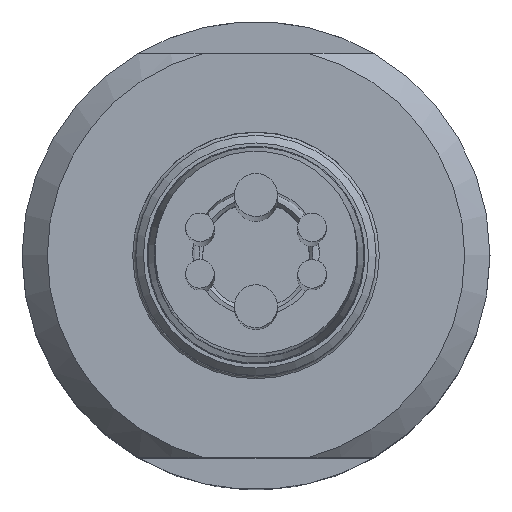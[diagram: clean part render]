
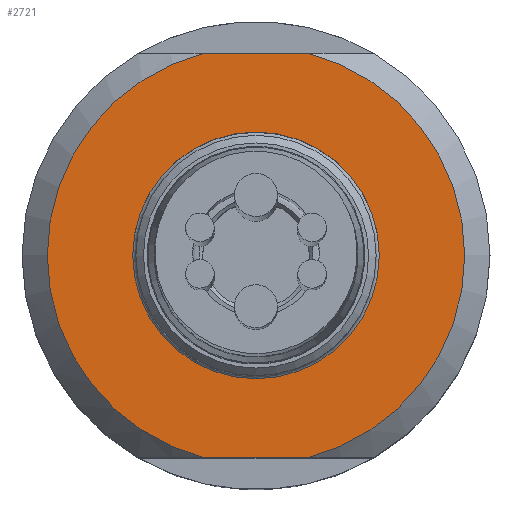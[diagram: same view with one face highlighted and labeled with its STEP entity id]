
A CAD part, top view. The second image highlights one B-rep face of the part: STEP entity #2721.
In plain terms, the highlighted planar face has unit normal (0, 0, 1).
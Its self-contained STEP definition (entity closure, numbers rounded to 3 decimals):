
#28 = CARTESIAN_POINT ( 'NONE',  ( -23.067, -8., 20.3 ) ) ;
#34 = AXIS2_PLACEMENT_3D ( 'NONE', #746, #3916, #3857 ) ;
#251 = AXIS2_PLACEMENT_3D ( 'NONE', #3641, #1056, #4101 ) ;
#321 = CARTESIAN_POINT ( 'NONE',  ( 2.016, 8., 20.3 ) ) ;
#483 = VERTEX_POINT ( 'NONE', #3080 ) ;
#492 = DIRECTION ( 'NONE',  ( -1., 0., 0. ) ) ;
#746 = CARTESIAN_POINT ( 'NONE',  ( 0., 8.25, 20.3 ) ) ;
#771 = EDGE_CURVE ( 'NONE', #2836, #1038, #1328, .T. ) ;
#816 = VERTEX_POINT ( 'NONE', #2426 ) ;
#853 = DIRECTION ( 'NONE',  ( -1., 0., 0. ) ) ;
#895 = CARTESIAN_POINT ( 'NONE',  ( 0., 0., 20.3 ) ) ;
#1038 = VERTEX_POINT ( 'NONE', #1257 ) ;
#1056 = DIRECTION ( 'NONE',  ( 0., 0., -1. ) ) ;
#1174 = FACE_BOUND ( 'NONE', #4670, .T. ) ;
#1182 = ORIENTED_EDGE ( 'NONE', *, *, #4726, .T. ) ;
#1207 = EDGE_CURVE ( 'NONE', #816, #4949, #3983, .T. ) ;
#1257 = CARTESIAN_POINT ( 'NONE',  ( 2.016, -8., 20.3 ) ) ;
#1328 = CIRCLE ( 'NONE', #251, 8.25 ) ;
#1407 = CIRCLE ( 'NONE', #2499, 4.875 ) ;
#1453 = DIRECTION ( 'NONE',  ( 0., 0., -1. ) ) ;
#1523 = AXIS2_PLACEMENT_3D ( 'NONE', #895, #2642, #4369 ) ;
#1925 = CARTESIAN_POINT ( 'NONE',  ( -2.016, 8., 20.3 ) ) ;
#1947 = VECTOR ( 'NONE', #3015, 1000. ) ;
#2044 = ORIENTED_EDGE ( 'NONE', *, *, #4751, .T. ) ;
#2184 = CARTESIAN_POINT ( 'NONE',  ( -23.067, 8., 20.3 ) ) ;
#2241 = LINE ( 'NONE', #28, #1947 ) ;
#2426 = CARTESIAN_POINT ( 'NONE',  ( -2.016, -8., 20.3 ) ) ;
#2486 = ORIENTED_EDGE ( 'NONE', *, *, #1207, .F. ) ;
#2499 = AXIS2_PLACEMENT_3D ( 'NONE', #5357, #1453, #492 ) ;
#2642 = DIRECTION ( 'NONE',  ( 0., 0., -1. ) ) ;
#2721 = ADVANCED_FACE ( 'NONE', ( #1174, #2919 ), #3657, .T. ) ;
#2836 = VERTEX_POINT ( 'NONE', #321 ) ;
#2919 = FACE_OUTER_BOUND ( 'NONE', #4598, .T. ) ;
#3015 = DIRECTION ( 'NONE',  ( 1., 0., 0. ) ) ;
#3080 = CARTESIAN_POINT ( 'NONE',  ( -4.875, 0., 20.3 ) ) ;
#3133 = VECTOR ( 'NONE', #853, 1000. ) ;
#3191 = EDGE_CURVE ( 'NONE', #483, #483, #1407, .T. ) ;
#3528 = LINE ( 'NONE', #2184, #3133 ) ;
#3641 = CARTESIAN_POINT ( 'NONE',  ( 0., 0., 20.3 ) ) ;
#3657 = PLANE ( 'NONE',  #34 ) ;
#3857 = DIRECTION ( 'NONE',  ( 1., 0., 0. ) ) ;
#3916 = DIRECTION ( 'NONE',  ( 0., 0., 1. ) ) ;
#3943 = ORIENTED_EDGE ( 'NONE', *, *, #771, .F. ) ;
#3983 = CIRCLE ( 'NONE', #1523, 8.25 ) ;
#4101 = DIRECTION ( 'NONE',  ( -1., 0., 0. ) ) ;
#4107 = ORIENTED_EDGE ( 'NONE', *, *, #3191, .T. ) ;
#4369 = DIRECTION ( 'NONE',  ( -1., 0., 0. ) ) ;
#4598 = EDGE_LOOP ( 'NONE', ( #2486, #1182, #3943, #2044 ) ) ;
#4670 = EDGE_LOOP ( 'NONE', ( #4107 ) ) ;
#4726 = EDGE_CURVE ( 'NONE', #816, #1038, #2241, .T. ) ;
#4751 = EDGE_CURVE ( 'NONE', #2836, #4949, #3528, .T. ) ;
#4949 = VERTEX_POINT ( 'NONE', #1925 ) ;
#5357 = CARTESIAN_POINT ( 'NONE',  ( 0., 0., 20.3 ) ) ;
